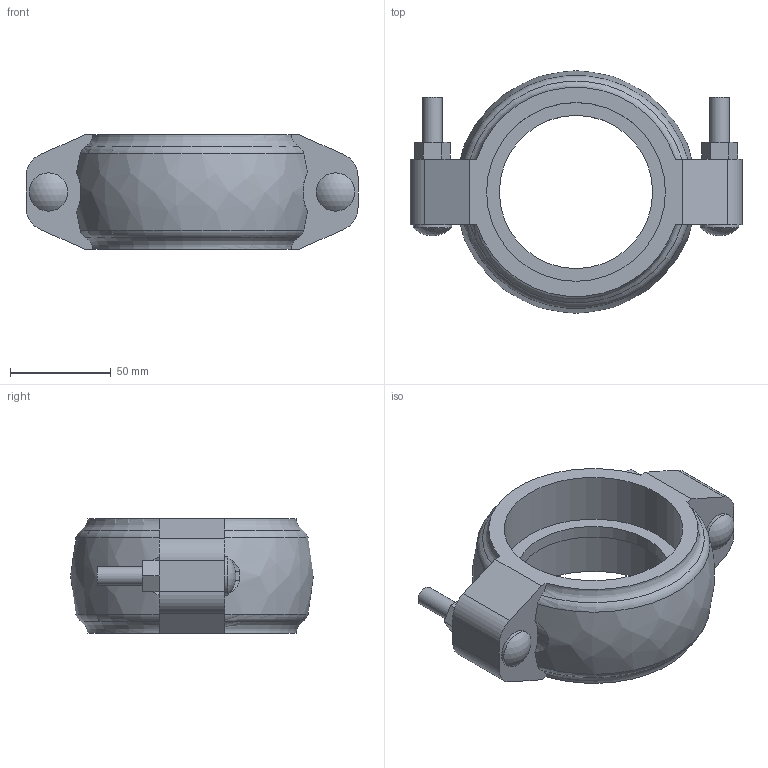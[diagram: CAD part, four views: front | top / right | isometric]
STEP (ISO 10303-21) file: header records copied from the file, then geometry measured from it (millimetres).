
FILE_DESCRIPTION(/* description */ ('VIC STRENGTHIN COUPLING STYLE E497 (RIGID)','CAx-IF Rec.Pracs.---Representation and Presentation of Product Manufacturing Information (PMI)---4.0---2014-10-13'),/* implementation_level */ '2;1');
FILE_NAME(/* name */ 'C:\Users\Vjadhav\AppData\Roaming\Autodesk\ApplicationPlugins\Back Up\Victaulic_SS-StrengThin 100_Coupling Rigid_Style E497 (ST1)\Victaulic_SS-StrengThin 100_Coupling Rigid_Style E497 (ST1)_3 (80).stp',/* time_stamp */ '2020-07-07T19:35:39+05:00',/* author */ ('jheald'),/* organization */ ('Victaulic'),/* preprocessor_version */ 'ST-DEVELOPER v17.2',/* originating_system */ 'Autodesk Inventor 2019',/* authorisation */ '');
FILE_SCHEMA (('AP242_MANAGED_MODEL_BASED_3D_ENGINEERING_MIM_LF { 1 0 10303 442 1 1 4 }'));
Length unit declared in the file: inch
Products named in the file (1): E497-03.0
Bounding box: 165.1 x 120.65 x 57.15 mm (x, y, z)
Volume: 329548.6 mm3; surface area: 60466.9 mm2
Topology: 1 solids, 3 shells, 79 faces, 211 edges, 142 vertices
Faces by surface type: plane 42, cylinder 25, torus 8, sphere 2, bspline 2
Full cylindrical faces by diameter (mm): 9.525 x4, 19.05 x2, 76.2 x1, 88.9 x2
Entity records: 3000 total; most frequent: CARTESIAN_POINT 802, DIRECTION 423, ORIENTED_EDGE 422, EDGE_CURVE 211, AXIS2_PLACEMENT_3D 157, VERTEX_POINT 142, LINE 109, VECTOR 109
